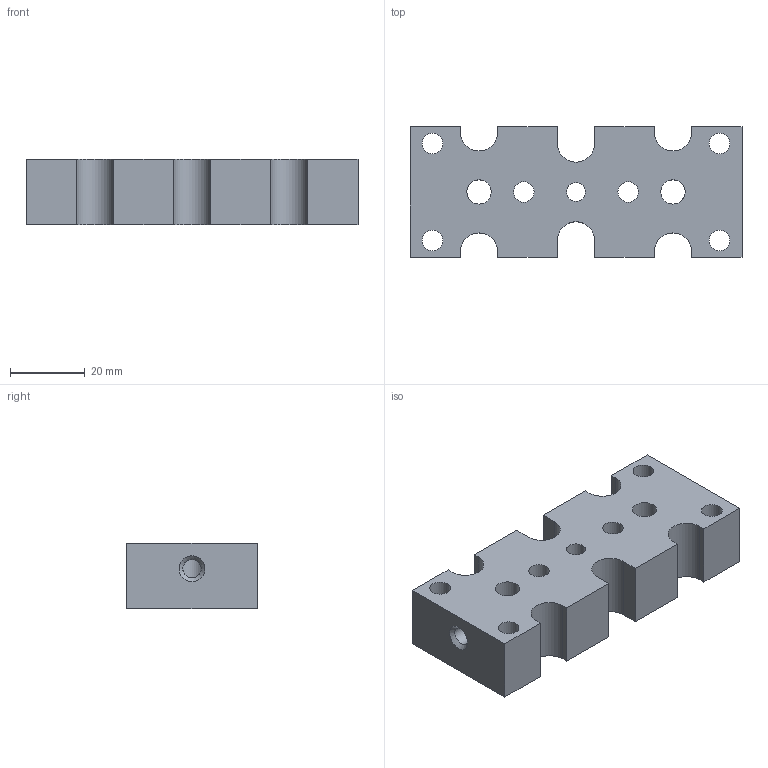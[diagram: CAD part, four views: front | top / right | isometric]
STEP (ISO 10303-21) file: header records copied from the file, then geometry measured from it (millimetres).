
FILE_DESCRIPTION(('STEP AP203'), '1');
FILE_NAME('ÒÏÏÔ1801.01.12.06.002 - Ñîåäèíèòåëü', '', ('UNSPECIFIED'), ('UNSPECIFIED'), 'C3D Converter', 'C3D Toolkit', '');
FILE_SCHEMA(('CONFIG_CONTROL_DESIGN'));
Length unit declared in the file: millimetre
Products named in the file (1): ТППФ1801.01.12.06.002
Bounding box: 89 x 35 x 17.5 mm (x, y, z)
Volume: 43158.1 mm3; surface area: 13662.5 mm2
Topology: 1 solids, 1 shells, 43 faces, 124 edges, 82 vertices
Faces by surface type: plane 24, cylinder 17, cone 2
Full cylindrical faces by diameter (mm): 4.917 x2, 5 x1, 5.5 x6, 6.5 x2
Entity records: 2105 total; most frequent: CARTESIAN_POINT 575, DIRECTION 228, ORIENTED_EDGE 220, EDGE_CURVE 110, VERTEX_POINT 82, AXIS2_PLACEMENT_3D 78, EDGE_LOOP 78, LINE 72
